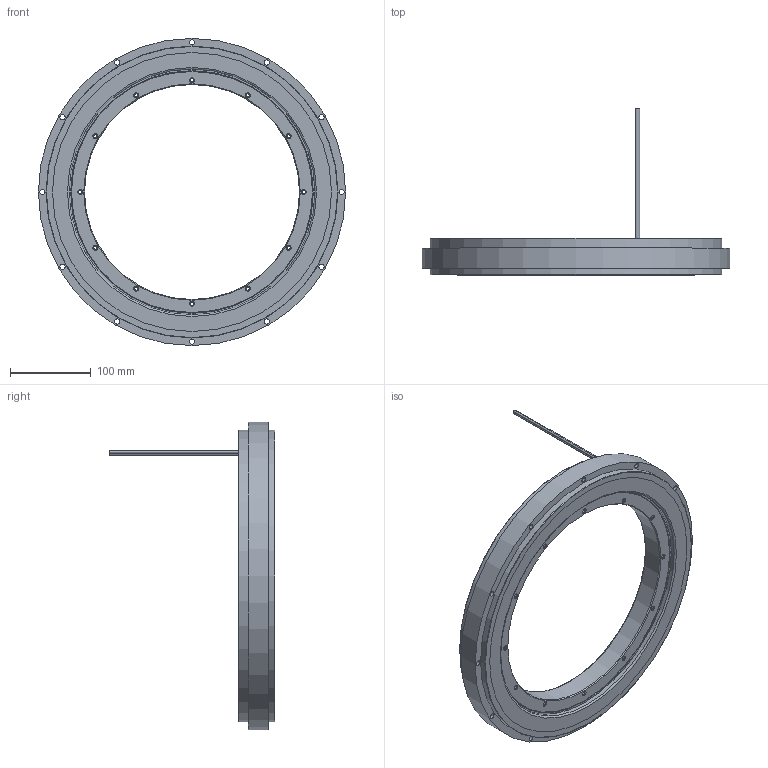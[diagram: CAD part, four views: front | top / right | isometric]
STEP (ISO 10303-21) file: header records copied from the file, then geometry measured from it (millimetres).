
FILE_DESCRIPTION(('STEP AP214'), '1');
FILE_NAME('楋樏襝鍱睯蜬蠈錪', '', ('UNSPECIFIED'), ('UNSPECIFIED'), 'C3D Converter', 'C3D Toolkit', '');
FILE_SCHEMA(('AUTOMOTIVE_DESIGN { 1 0 10303 214 3 1 1}'));
Length unit declared in the file: millimetre
Products named in the file (3): -04; МАНП.684252.020-20; МАНП.684222.023-20
Assembly tree (2 placements, depth 2):
  -04
    МАНП.684252.020-20
    МАНП.684222.023-20
Bounding box: 380 x 205 x 380 mm (x, y, z)
Volume: 1937397.8 mm3; surface area: 267459.2 mm2
Topology: 5 solids, 5 shells, 86 faces, 177 edges, 107 vertices
Faces by surface type: cylinder 37, cone 26, plane 16, torus 7
Full cylindrical faces by diameter (mm): 2.6 x3, 4.134 x12, 6.4 x12, 266 x1, 298.5 x1, 300 x1, 304 x2, 345 x2, 361 x2, 380 x1
Entity records: 2902 total; most frequent: DIRECTION 392, CARTESIAN_POINT 303, EDGE_LOOP 214, ORIENTED_EDGE 214, AXIS2_PLACEMENT_3D 196, FACE_OUTER_BOUND 140, EDGE_CURVE 107, VERTEX_POINT 107
